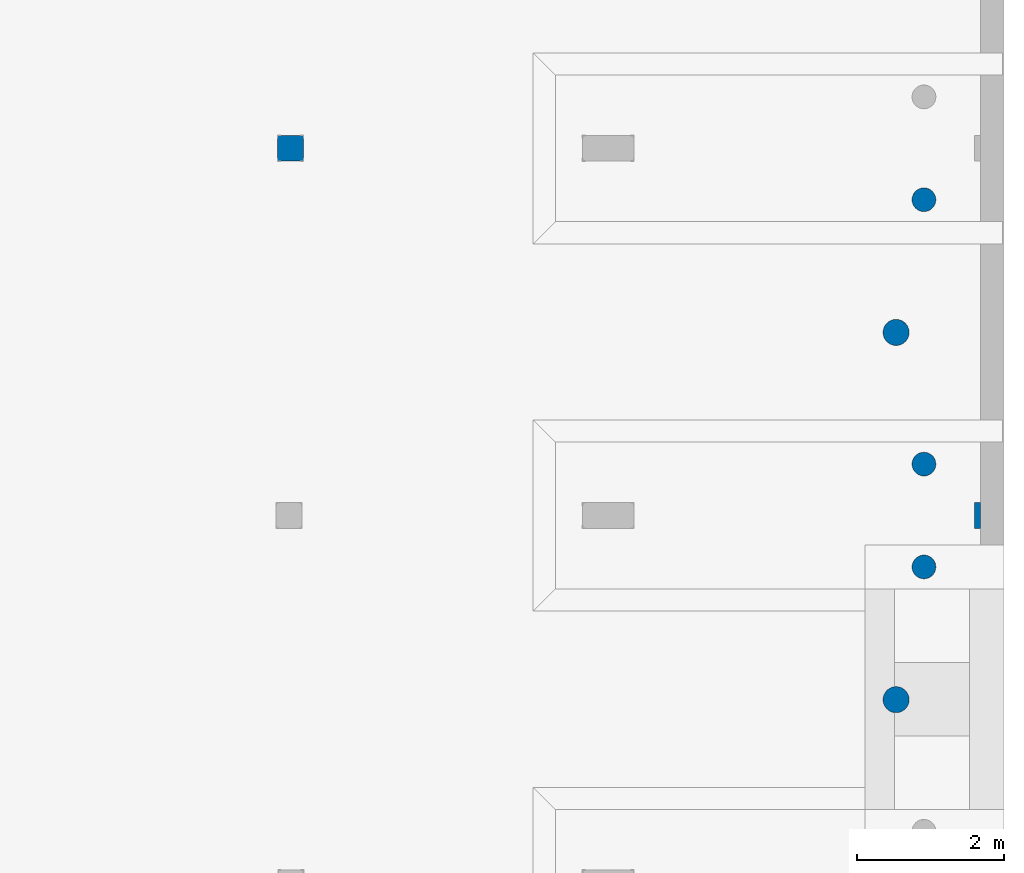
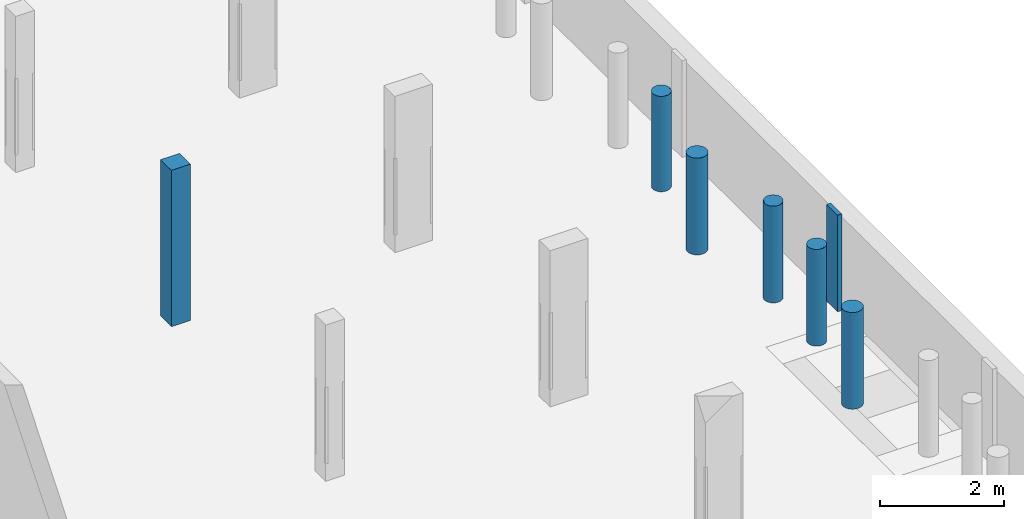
# One storey, part 16 of 42: 7 columns.
"""IFC2X3 building model written with IfcOpenShell, lengths in millimetres."""

from ifc_helpers import new_model, entity, si_unit, converted_unit, derived_unit, direction, frame, frame_2d, origin, origin_2d_with_axis, place, context, subcontext, project, spatial, rectangle, circle, hollow_circle, extrude, source, transform, mapped, material, material_list, type_object, type_shapes, element, save


model = new_model("IFC2X3")

# Units and contexts
model_context = context("Model", 3, precision=0.01, world=origin(), true_north=direction((6.12303176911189e-17, 1.0)))
body_context = subcontext(model_context, "Body", "Model", "MODEL_VIEW")
ifc_project = project(units=[si_unit("LENGTHUNIT", "METRE", prefix="MILLI"), si_unit("AREAUNIT", "SQUARE_METRE", prefix="MILLI"), si_unit("VOLUMEUNIT", "CUBIC_METRE"), converted_unit("PLANEANGLEUNIT", "DEGREE", entity("IfcRatioMeasure", 0.0174532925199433), si_unit("PLANEANGLEUNIT", "RADIAN"), dimensions=[0, 0, 0, 0, 0, 0, 0]), si_unit("MASSUNIT", "GRAM", prefix="KILO"), derived_unit("MASSDENSITYUNIT", [(si_unit("MASSUNIT", "GRAM", prefix="KILO"), 1), (si_unit("LENGTHUNIT", "METRE"), -3)]), derived_unit("MOMENTOFINERTIAUNIT", [(si_unit("LENGTHUNIT", "METRE"), 4)]), si_unit("TIMEUNIT", "SECOND"), si_unit("FREQUENCYUNIT", "HERTZ"), si_unit("THERMODYNAMICTEMPERATUREUNIT", "DEGREE_CELSIUS"), derived_unit("THERMALTRANSMITTANCEUNIT", [(si_unit("MASSUNIT", "GRAM", prefix="KILO"), 1), (si_unit("THERMODYNAMICTEMPERATUREUNIT", "KELVIN"), -1), (si_unit("TIMEUNIT", "SECOND"), -3)]), derived_unit("VOLUMETRICFLOWRATEUNIT", [(si_unit("LENGTHUNIT", "METRE"), 3), (si_unit("TIMEUNIT", "SECOND"), -1)]), si_unit("ELECTRICCURRENTUNIT", "AMPERE"), si_unit("ELECTRICVOLTAGEUNIT", "VOLT"), si_unit("POWERUNIT", "WATT"), si_unit("FORCEUNIT", "NEWTON", prefix="KILO"), si_unit("ILLUMINANCEUNIT", "LUX"), si_unit("LUMINOUSFLUXUNIT", "LUMEN"), si_unit("LUMINOUSINTENSITYUNIT", "CANDELA"), derived_unit("USERDEFINED", [(si_unit("MASSUNIT", "GRAM", prefix="KILO"), -1), (si_unit("LENGTHUNIT", "METRE"), -2), (si_unit("TIMEUNIT", "SECOND"), 3), (si_unit("LUMINOUSFLUXUNIT", "LUMEN"), 1)]), derived_unit("LINEARVELOCITYUNIT", [(si_unit("LENGTHUNIT", "METRE"), 1), (si_unit("TIMEUNIT", "SECOND"), -1)]), si_unit("PRESSUREUNIT", "PASCAL"), derived_unit("USERDEFINED", [(si_unit("LENGTHUNIT", "METRE"), -2), (si_unit("MASSUNIT", "GRAM", prefix="KILO"), 1), (si_unit("TIMEUNIT", "SECOND"), -2)]), derived_unit("LINEARFORCEUNIT", [(si_unit("MASSUNIT", "GRAM", prefix="KILO"), 1), (si_unit("LENGTHUNIT", "METRE"), 1), (si_unit("TIMEUNIT", "SECOND"), -2), (si_unit("LENGTHUNIT", "METRE"), -1)]), derived_unit("PLANARFORCEUNIT", [(si_unit("MASSUNIT", "GRAM", prefix="KILO"), 1), (si_unit("LENGTHUNIT", "METRE"), 1), (si_unit("TIMEUNIT", "SECOND"), -2), (si_unit("LENGTHUNIT", "METRE"), -2)])], contexts=[model_context])

# Site, building, storey
site_placement = place(None, origin())
site = spatial("IfcSite", under=ifc_project, at=site_placement, Name="Theater aan de Parade", CompositionType="ELEMENT")
building_placement = place(site_placement, origin())
building = spatial("IfcBuilding", under=site, at=building_placement, Name="Theater aan de Parade", CompositionType="ELEMENT")
storey_placement = place(building_placement, frame((0.0, 0.0, -3300.0)))
storey = spatial("IfcBuildingStorey", under=building, at=storey_placement, Name="-1 kelder", CompositionType="ELEMENT", Elevation=-3300.0)

# Columns
ifc_material_1 = material(Name="00_PBT_MAT_beton t.p.g.")
column_type_1 = type_object("IfcColumnType", Name="28_PBT_SC_beton_rechthoekig:350x350_bestaand", PredefinedType="COLUMN", material=ifc_material_1)
shared_shape_1 = source(origin(), body_context, "Body", "SweptSolid", [
    extrude(rectangle(XDim=349.999999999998, YDim=349.99999999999, at=origin_2d_with_axis()), frame((78965.0, 34970.0, -2640.0), z_axis=(0.0, 0.0, 1.0), x_axis=(0.0, -1.0, 0.0)), (0.0, 0.0, 1.0), 3070.0000000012),
])
type_shapes(column_type_1, [shared_shape_1])
column_1_placement = place(storey_placement, frame((0.0, 0.0, 3300.0)))
element("IfcColumn", 1, at=column_1_placement, inside=storey, type_object=column_type_1, material=ifc_material_1, Name="28_PBT_SC_beton_rechthoekig:350x350_bestaand", ObjectType="28_PBT_SC_beton_rechthoekig:350x350_bestaand", context=body_context, shape_type="MappedRepresentation", body=[
    mapped(shared_shape_1, transform((0.0, 0.0, 0.0), scale=1.0)),
])
column_type_2 = type_object("IfcColumnType", Name="16_PBT_SC_beton_rechthoekig:350x350_bestaand", PredefinedType="COLUMN", material=ifc_material_1)
shared_shape_2 = source(origin(), body_context, "Body", "SweptSolid", [
    extrude(rectangle(XDim=349.999999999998, YDim=79.9999999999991, at=frame_2d((-4.33431068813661e-12, 8.66506866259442e-12), x_axis=(1.0, 0.0))), frame((88320.0, 29970.0, -2640.0), z_axis=(0.0, 0.0, 1.0), x_axis=(0.0, -1.0, 0.0)), (0.0, 0.0, 1.0), 1900.00000000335),
])
type_shapes(column_type_2, [shared_shape_2])
column_2_placement = place(storey_placement, frame((0.0, 0.0, 3300.0)))
element("IfcColumn", 2, at=column_2_placement, inside=storey, type_object=column_type_2, material=ifc_material_1, Name="16_PBT_SC_beton_rechthoekig:350x350_bestaand", ObjectType="16_PBT_SC_beton_rechthoekig:350x350_bestaand", context=body_context, shape_type="MappedRepresentation", body=[
    mapped(shared_shape_2, transform((0.0, 0.0, 0.0), scale=1.0)),
])
ifc_material_2 = material(Name="00_PBT_MAT_staal_S355")
ifc_material_3 = material(Name="00_PBT_MAT_beton t.p.g._C40/50")
ifc_material_list_1 = material_list([ifc_material_2, ifc_material_3])
ifc_material_list_2 = material_list([ifc_material_2, ifc_material_3])
column_type_3 = type_object("IfcColumnType", Name="28_PBT_SC_staal_buis:S355_B355.6x10_GB_C40/50", PredefinedType="COLUMN", material=ifc_material_list_2)
shared_shape_3 = source(origin(), body_context, "Body", "SweptSolid", [
    extrude(hollow_circle(Radius=177.8, WallThickness=10.0, at=frame_2d((1.77837538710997e-15, -3.26747168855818e-13), x_axis=(1.0, 0.0))), frame((0.0, 0.0, -2640.0), z_axis=(0.0, 0.0, 1.0), x_axis=(-1.0, 0.0, 0.0)), (0.0, 0.0, 1.0), 1900.00000000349),
    extrude(circle(Radius=167.8, at=frame_2d((-6.17986865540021e-15, 1.42612000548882e-12), x_axis=(1.0, 0.0))), frame((0.0, 0.0, -2640.0)), (0.0, 0.0, 1.0), 1900.00000000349),
])
type_shapes(column_type_3, [shared_shape_3])
column_3_placement = place(storey_placement, frame((87211.0, 27462.4999999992, 3300.0)))
element("IfcColumn", 3, at=column_3_placement, inside=storey, type_object=column_type_3, material=ifc_material_list_1, Name="28_PBT_SC_staal_buis:S355_B355.6x10_GB_C40/50", ObjectType="28_PBT_SC_staal_buis:S355_B355.6x10_GB_C40/50", context=body_context, shape_type="MappedRepresentation", body=[
    mapped(shared_shape_3, transform((0.0, 0.0, 0.0), scale=1.0)),
])
ifc_material_list_3 = material_list([ifc_material_2, ifc_material_3])
column_4_placement = place(storey_placement, frame((87211.0, 32462.4999999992, 3300.0)))
element("IfcColumn", 4, at=column_4_placement, inside=storey, type_object=column_type_3, material=ifc_material_list_3, Name="28_PBT_SC_staal_buis:S355_B355.6x10_GB_C40/50", ObjectType="28_PBT_SC_staal_buis:S355_B355.6x10_GB_C40/50", context=body_context, shape_type="MappedRepresentation", body=[
    mapped(shared_shape_3, transform((0.0, 0.0, 0.0), scale=1.0)),
])
ifc_material_list_4 = material_list([ifc_material_2, ifc_material_3])
ifc_material_list_5 = material_list([ifc_material_2, ifc_material_3])
column_type_4 = type_object("IfcColumnType", Name="28_PBT_SC_staal_buis:S355_B323.9x10_GB_C40/50", PredefinedType="COLUMN", material=ifc_material_list_5)
shared_shape_4 = source(origin(), body_context, "Body", "SweptSolid", [
    extrude(hollow_circle(Radius=161.95, WallThickness=9.99999999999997, at=frame_2d((1.77837538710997e-15, -2.97621380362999e-13), x_axis=(1.0, 0.0))), frame((0.0, 0.0, -2640.0), z_axis=(0.0, 0.0, 1.0), x_axis=(-1.0, 0.0, 0.0)), (0.0, 0.0, 1.0), 1900.00000000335),
    extrude(circle(Radius=151.95, at=frame_2d((-6.17986865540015e-15, 1.29141200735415e-12), x_axis=(1.0, 0.0))), frame((0.0, 0.0, -2640.0)), (0.0, 0.0, 1.0), 1900.00000000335),
])
type_shapes(column_type_4, [shared_shape_4])
column_5_placement = place(storey_placement, frame((87590.0, 29270.0, 3300.0)))
element("IfcColumn", 5, at=column_5_placement, inside=storey, type_object=column_type_4, material=ifc_material_list_4, Name="28_PBT_SC_staal_buis:S355_B323.9x10_GB_C40/50", ObjectType="28_PBT_SC_staal_buis:S355_B323.9x10_GB_C40/50", context=body_context, shape_type="MappedRepresentation", body=[
    mapped(shared_shape_4, transform((0.0, 0.0, 0.0), scale=1.0)),
])
ifc_material_list_6 = material_list([ifc_material_2, ifc_material_3])
column_6_placement = place(storey_placement, frame((87590.0, 30670.0, 3300.0)))
element("IfcColumn", 6, at=column_6_placement, inside=storey, type_object=column_type_4, material=ifc_material_list_6, Name="28_PBT_SC_staal_buis:S355_B323.9x10_GB_C40/50", ObjectType="28_PBT_SC_staal_buis:S355_B323.9x10_GB_C40/50", context=body_context, shape_type="MappedRepresentation", body=[
    mapped(shared_shape_4, transform((0.0, 0.0, 0.0), scale=1.0)),
])
ifc_material_list_7 = material_list([ifc_material_2, ifc_material_3])
ifc_material_list_8 = material_list([ifc_material_2, ifc_material_3])
column_type_5 = type_object("IfcColumnType", Name="28_PBT_SC_staal_buis:S355_B323.9x10_GB_C40/50", PredefinedType="COLUMN", material=ifc_material_list_8)
shared_shape_5 = source(origin(), body_context, "Body", "SweptSolid", [
    extrude(hollow_circle(Radius=161.95, WallThickness=9.99999999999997, at=frame_2d((1.77837538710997e-15, -2.97621380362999e-13), x_axis=(1.0, 0.0))), frame((0.0, 0.0, -2640.0), z_axis=(0.0, 0.0, 1.0), x_axis=(-1.0, 0.0, 0.0)), (0.0, 0.0, 1.0), 1875.00000000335),
    extrude(circle(Radius=151.95, at=frame_2d((-6.17986865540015e-15, 1.29141200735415e-12), x_axis=(1.0, 0.0))), frame((0.0, 0.0, -2640.0)), (0.0, 0.0, 1.0), 1875.00000000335),
])
type_shapes(column_type_5, [shared_shape_5])
column_7_placement = place(storey_placement, frame((87590.0, 34270.0, 3300.0)))
element("IfcColumn", 7, at=column_7_placement, inside=storey, type_object=column_type_5, material=ifc_material_list_7, Name="28_PBT_SC_staal_buis:S355_B323.9x10_GB_C40/50", ObjectType="28_PBT_SC_staal_buis:S355_B323.9x10_GB_C40/50", context=body_context, shape_type="MappedRepresentation", body=[
    mapped(shared_shape_5, transform((0.0, 0.0, 0.0), scale=1.0)),
])

save(model, "model.ifc")
